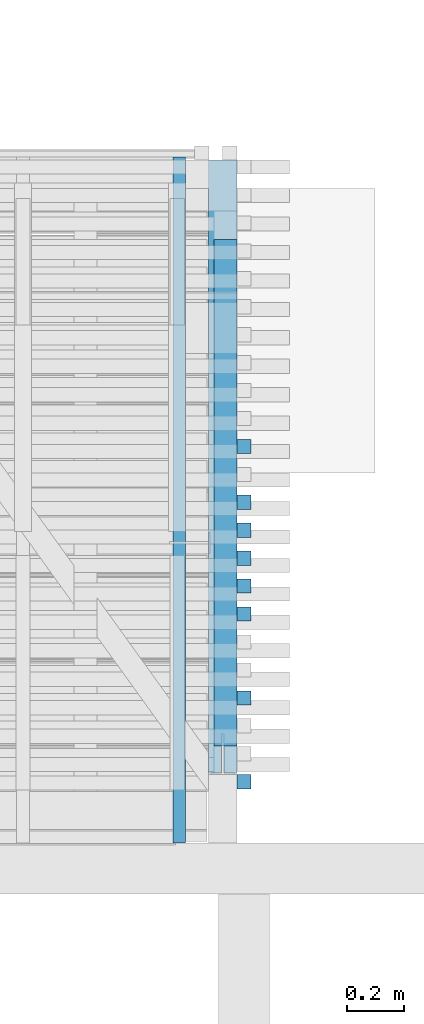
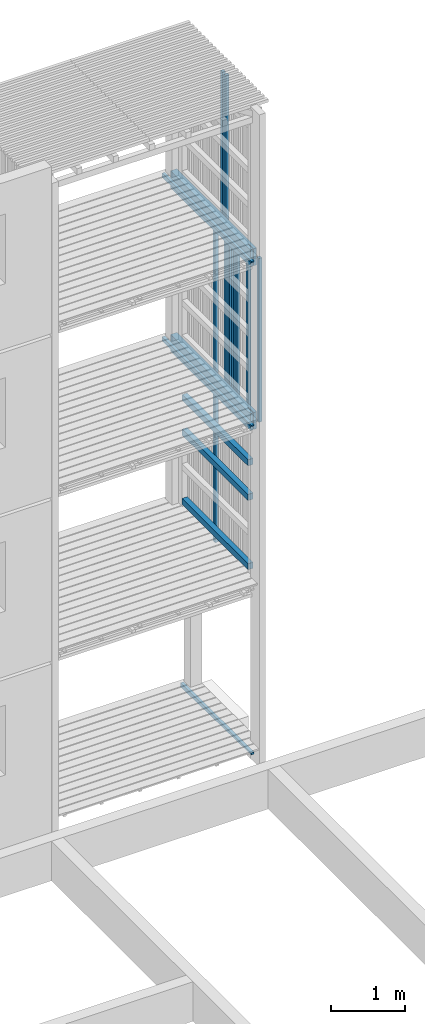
# One storey, part 129 of 182: 18 beams.
"""IFC2X3 building model written with IfcOpenShell, lengths in metres."""

from ifc_helpers import new_model, si_unit, frame, origin, place, context, project, spatial, faceted_brep, element, save


model = new_model("IFC2X3")

# Units and contexts
model_context = context("Model", 3, precision=1e-06, world=origin())
ifc_project = project(units=[si_unit("LENGTHUNIT", "METRE"), si_unit("PLANEANGLEUNIT", "RADIAN")], contexts=[model_context])

# Site, building, storey
site = spatial("IfcSite", under=ifc_project, CompositionType="ELEMENT")
building = spatial("IfcBuilding", under=site, CompositionType="ELEMENT")
storey = spatial("IfcBuildingStorey", under=building, Name="vs", CompositionType="ELEMENT", Elevation=-0.85)

# Beams
placement = place(None, origin())
beam_1_placement = place(placement, frame((56.37999999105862, 6.263259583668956, 5.274999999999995), z_axis=(-1.0, 0.0, 0.0), x_axis=(0.0, 0.0, 1.0)))
element("IfcBeam", 1, at=beam_1_placement, inside=storey, Name="Bardage", context=model_context, shape_type="Brep", body=[
    faceted_brep([(1e-15, -0.024999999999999, 0.024999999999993), (1e-15, 0.024999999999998, 0.024999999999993), (1e-15, 0.024999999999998, -0.025000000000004), (1e-15, -0.024999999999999, -0.025000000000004), (2.699999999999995, -0.024999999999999, -0.025000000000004), (2.699999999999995, 0.024999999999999, -0.025000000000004), (2.699999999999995, 0.024999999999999, 0.024999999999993), (2.699999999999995, -0.024999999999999, 0.024999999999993), (1e-15, -0.024999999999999, 0.024999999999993), (1e-15, -0.024999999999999, -0.025000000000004), (2.699999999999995, -0.024999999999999, -0.025000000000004), (2.699999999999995, -0.024999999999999, 0.024999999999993), (2.699999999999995, -0.024999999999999, -0.025000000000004), (1e-15, -0.024999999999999, -0.025000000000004), (1e-15, 0.024999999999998, -0.025000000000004), (2.699999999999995, 0.024999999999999, -0.025000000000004), (2.699999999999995, 0.024999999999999, -0.025000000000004), (1e-15, 0.024999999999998, -0.025000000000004), (1e-15, 0.024999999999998, 0.024999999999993), (2.699999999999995, 0.024999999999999, 0.024999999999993), (2.699999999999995, 0.024999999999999, 0.024999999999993), (1e-15, 0.024999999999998, 0.024999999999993), (1e-15, -0.024999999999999, 0.024999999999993), (2.699999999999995, -0.024999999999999, 0.024999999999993)], [[[0, 1, 2, 3]], [[4, 5, 6, 7]], [[8, 9, 10, 11]], [[12, 13, 14, 15]], [[16, 17, 18, 19]], [[20, 21, 22, 23]]]),
])
beam_2_placement = place(placement, frame((56.152499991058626, 4.870077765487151, -0.015599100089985), z_axis=(0.0, 0.0, 1.0), x_axis=(0.0, 1.0, 0.0)))
element("IfcBeam", 2, at=beam_2_placement, inside=storey, Name="Calage", context=model_context, shape_type="Brep", body=[
    faceted_brep([(1.91000000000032, -0.022499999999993, -0.035599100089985), (0.0, -0.022499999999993, 0.002600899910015), (0.0, 0.022500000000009, 0.002600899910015), (1.91000000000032, 0.022500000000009, -0.035599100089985), (0.0, -0.022499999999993, 0.035599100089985), (0.0, 0.022500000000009, 0.035599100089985), (0.0, 0.022500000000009, 0.002600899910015), (0.0, -0.022499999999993, 0.002600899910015), (0.0, 0.022500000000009, 0.035599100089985), (0.0, -0.022499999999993, 0.035599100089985), (1.91000000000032, -0.022499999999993, 0.035599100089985), (1.91000000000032, 0.022500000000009, 0.035599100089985), (1.91000000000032, -0.022499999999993, 0.035599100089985), (0.0, -0.022499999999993, 0.035599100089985), (0.0, -0.022499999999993, 0.002600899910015), (1.91000000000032, -0.022499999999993, -0.035599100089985), (1.91000000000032, 0.022500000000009, 0.035599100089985), (1.91000000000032, -0.022499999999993, 0.035599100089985), (1.91000000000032, -0.022499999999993, -0.035599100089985), (1.91000000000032, 0.022500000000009, -0.035599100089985), (0.0, 0.022500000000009, 0.002600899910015), (0.0, 0.022500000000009, 0.035599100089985), (1.91000000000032, 0.022500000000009, 0.035599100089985), (1.91000000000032, 0.022500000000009, -0.035599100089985)], [[[0, 1, 2, 3]], [[4, 5, 6, 7]], [[8, 9, 10, 11]], [[12, 13, 14, 15]], [[16, 17, 18, 19]], [[20, 21, 22, 23]]]),
])
beam_3_placement = place(placement, frame((56.152499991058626, 4.870077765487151, 5.384400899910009), z_axis=(0.0, 0.0, 1.0), x_axis=(0.0, 1.0, 0.0)))
element("IfcBeam", 3, at=beam_3_placement, inside=storey, Name="Calage", context=model_context, shape_type="Brep", body=[
    faceted_brep([(2.410000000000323, -0.022499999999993, -0.035599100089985), (0.0, -0.022499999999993, 0.012600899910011), (0.0, 0.022500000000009, 0.012600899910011), (2.410000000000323, 0.022500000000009, -0.035599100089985), (0.0, 0.022500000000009, 0.035599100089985), (0.0, 0.022500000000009, 0.012600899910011), (0.0, -0.022499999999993, 0.012600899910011), (0.0, -0.022499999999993, 0.035599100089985), (2.410000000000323, 0.022500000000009, -0.035599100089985), (0.0, 0.022500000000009, 0.012600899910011), (0.0, 0.022500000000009, 0.035599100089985), (2.410000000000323, 0.022500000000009, 0.035599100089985), (2.410000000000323, -0.022499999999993, 0.035599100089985), (0.0, -0.022499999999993, 0.035599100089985), (0.0, -0.022499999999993, 0.012600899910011), (2.410000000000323, -0.022499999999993, -0.035599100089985), (2.410000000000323, 0.022500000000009, 0.035599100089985), (0.0, 0.022500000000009, 0.035599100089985), (0.0, -0.022499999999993, 0.035599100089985), (2.410000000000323, -0.022499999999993, 0.035599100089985), (2.410000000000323, 0.022500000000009, -0.035599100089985), (2.410000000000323, 0.022500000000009, 0.035599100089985), (2.410000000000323, -0.022499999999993, 0.035599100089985), (2.410000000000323, -0.022499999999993, -0.035599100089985)], [[[0, 1, 2, 3]], [[4, 5, 6, 7]], [[8, 9, 10, 11]], [[12, 13, 14, 15]], [[16, 17, 18, 19]], [[20, 21, 22, 23]]]),
])
beam_4_placement = place(placement, frame((56.314999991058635, 5.210077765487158, 4.543749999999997), z_axis=(0.0, 0.0, 1.0), x_axis=(0.0, 1.0, 0.0)))
element("IfcBeam", 4, at=beam_4_placement, inside=storey, Name="Support bardage", context=model_context, shape_type="Brep", body=[
    faceted_brep([(1.779999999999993, -0.039999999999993, 0.050000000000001), (1.779999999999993, -0.039999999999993, -0.050000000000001), (1.779999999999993, 0.04000000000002, -0.050000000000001), (1.779999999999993, 0.04000000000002, 0.050000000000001), (-4e-15, -0.039999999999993, -0.050000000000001), (1.779999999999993, -0.039999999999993, -0.050000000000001), (1.779999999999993, -0.039999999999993, 0.050000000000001), (-4e-15, -0.039999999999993, 0.050000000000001), (-4e-15, 0.04000000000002, -0.050000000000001), (1.779999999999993, 0.04000000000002, -0.050000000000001), (1.779999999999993, -0.039999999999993, -0.050000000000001), (-4e-15, -0.039999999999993, -0.050000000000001), (-4e-15, 0.04000000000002, 0.050000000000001), (1.779999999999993, 0.04000000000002, 0.050000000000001), (1.779999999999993, 0.04000000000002, -0.050000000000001), (-4e-15, 0.04000000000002, -0.050000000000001), (-4e-15, -0.039999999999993, 0.050000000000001), (1.779999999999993, -0.039999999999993, 0.050000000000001), (1.779999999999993, 0.04000000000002, 0.050000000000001), (-4e-15, 0.04000000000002, 0.050000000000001), (-4e-15, -0.039999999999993, -0.050000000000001), (-4e-15, -0.039999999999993, 0.050000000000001), (-4e-15, 0.04000000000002, 0.050000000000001), (-4e-15, 0.04000000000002, -0.050000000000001)], [[[0, 1, 2, 3]], [[4, 5, 6, 7]], [[8, 9, 10, 11]], [[12, 13, 14, 15]], [[16, 17, 18, 19]], [[20, 21, 22, 23]]]),
])
beam_5_placement = place(placement, frame((56.37999999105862, 6.066895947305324, 7.974999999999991), z_axis=(-1.0, 0.0, 0.0), x_axis=(0.0, 0.0, 1.0)))
element("IfcBeam", 5, at=beam_5_placement, inside=storey, Name="Bardage", context=model_context, shape_type="Brep", body=[
    faceted_brep([(2.479999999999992, -0.025000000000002, 0.024999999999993), (2.479999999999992, -0.025000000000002, -0.025000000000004), (2.479999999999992, 0.024999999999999, -0.025000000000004), (2.479999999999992, 0.024999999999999, 0.024999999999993), (0.0, 0.024999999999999, 0.024999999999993), (0.0, -0.025000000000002, 0.024999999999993), (2.479999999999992, -0.025000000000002, 0.024999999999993), (2.479999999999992, 0.024999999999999, 0.024999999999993), (0.0, -0.025000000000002, 0.024999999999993), (0.0, 0.024999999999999, 0.024999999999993), (0.0, 0.024999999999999, -0.025000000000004), (0.0, -0.025000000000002, -0.025000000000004), (0.0, 0.024999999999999, -0.025000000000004), (0.0, 0.024999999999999, 0.024999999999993), (2.479999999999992, 0.024999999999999, 0.024999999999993), (2.479999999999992, 0.024999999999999, -0.025000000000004), (0.0, -0.025000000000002, -0.025000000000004), (0.0, 0.024999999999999, -0.025000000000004), (2.479999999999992, 0.024999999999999, -0.025000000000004), (2.479999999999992, -0.025000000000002, -0.025000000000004), (2.479999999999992, -0.025000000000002, 0.024999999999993), (0.0, -0.025000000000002, 0.024999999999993), (0.0, -0.025000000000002, -0.025000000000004), (2.479999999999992, -0.025000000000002, -0.025000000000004)], [[[0, 1, 2, 3]], [[4, 5, 6, 7]], [[8, 9, 10, 11]], [[12, 13, 14, 15]], [[16, 17, 18, 19]], [[20, 21, 22, 23]]]),
])
beam_6_placement = place(placement, frame((56.314999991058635, 5.210077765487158, 2.830000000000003), z_axis=(0.0, 0.0, 1.0), x_axis=(0.0, 1.0, 0.0)))
element("IfcBeam", 6, at=beam_6_placement, inside=storey, Name="Support bardage", context=model_context, shape_type="Brep", body=[
    faceted_brep([(1.779999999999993, -0.039999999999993, 0.05), (1.779999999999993, -0.039999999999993, -0.050000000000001), (1.779999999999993, 0.04000000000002, -0.050000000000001), (1.779999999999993, 0.04000000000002, 0.05), (-4e-15, -0.039999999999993, -0.050000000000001), (1.779999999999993, -0.039999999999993, -0.050000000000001), (1.779999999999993, -0.039999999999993, 0.05), (-4e-15, -0.039999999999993, 0.05), (-4e-15, 0.04000000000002, -0.050000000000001), (1.779999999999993, 0.04000000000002, -0.050000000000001), (1.779999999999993, -0.039999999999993, -0.050000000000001), (-4e-15, -0.039999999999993, -0.050000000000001), (-4e-15, 0.04000000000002, 0.05), (1.779999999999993, 0.04000000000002, 0.05), (1.779999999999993, 0.04000000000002, -0.050000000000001), (-4e-15, 0.04000000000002, -0.050000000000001), (-4e-15, -0.039999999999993, 0.05), (1.779999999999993, -0.039999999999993, 0.05), (1.779999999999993, 0.04000000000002, 0.05), (-4e-15, 0.04000000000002, 0.05), (-4e-15, -0.039999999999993, -0.050000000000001), (-4e-15, -0.039999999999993, 0.05), (-4e-15, 0.04000000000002, 0.05), (-4e-15, 0.04000000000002, -0.050000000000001)], [[[0, 1, 2, 3]], [[4, 5, 6, 7]], [[8, 9, 10, 11]], [[12, 13, 14, 15]], [[16, 17, 18, 19]], [[20, 21, 22, 23]]]),
])
beam_7_placement = place(placement, frame((56.30499999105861, 5.115077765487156, 7.979999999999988), z_axis=(0.0, 0.0, 1.0), x_axis=(0.0, 1.0, 0.0)))
element("IfcBeam", 7, at=beam_7_placement, inside=storey, Name="Sommier", context=model_context, shape_type="Brep", body=[
    faceted_brep([(2.154999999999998, -0.050000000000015, -0.14), (2.154999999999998, -0.050000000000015, 0.140000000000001), (0.0, -0.050000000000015, 0.140000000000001), (0.0, -0.050000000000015, -0.14), (-4e-15, -0.004000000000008, 0.140000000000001), (0.0, -0.050000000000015, 0.140000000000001), (2.154999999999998, -0.050000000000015, 0.140000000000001), (2.154999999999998, 0.049999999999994, 0.140000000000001), (0.0, 0.049999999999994, 0.140000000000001), (-4e-15, 0.003999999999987, 0.140000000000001), (0.136999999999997, 0.003999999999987, 0.140000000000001), (0.136999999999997, -0.004000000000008, 0.140000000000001), (2.154999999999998, 0.049999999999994, 0.140000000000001), (2.154999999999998, -0.050000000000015, 0.140000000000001), (2.154999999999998, -0.050000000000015, -0.14), (2.154999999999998, 0.049999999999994, -0.14), (0.847999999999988, 0.044999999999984, -0.14), (0.771999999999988, 0.044999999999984, -0.14), (0.771999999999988, 0.044999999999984, 0.035000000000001), (0.847999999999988, 0.044999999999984, 0.035000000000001), (0.847999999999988, 0.044999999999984, 0.035000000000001), (0.771999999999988, 0.044999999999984, 0.035000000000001), (0.771999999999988, 0.049999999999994, 0.035000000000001), (0.847999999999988, 0.049999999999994, 0.035000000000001), (0.847999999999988, 0.049999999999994, -0.14), (0.847999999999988, 0.044999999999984, -0.14), (0.847999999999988, 0.044999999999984, 0.035000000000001), (0.847999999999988, 0.049999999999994, 0.035000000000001), (0.771999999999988, 0.044999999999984, 0.035000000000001), (0.771999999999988, 0.044999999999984, -0.14), (0.771999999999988, 0.049999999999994, -0.14), (0.771999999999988, 0.049999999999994, 0.035000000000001), (0.0, 0.049999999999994, 0.140000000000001), (2.154999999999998, 0.049999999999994, 0.140000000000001), (2.154999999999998, 0.049999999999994, -0.14), (0.847999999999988, 0.049999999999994, -0.14), (0.847999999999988, 0.049999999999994, 0.035000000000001), (0.771999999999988, 0.049999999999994, 0.035000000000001), (0.771999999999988, 0.049999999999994, -0.14), (0.0, 0.049999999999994, -0.14), (0.0, 0.003999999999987, -0.14), (-4e-15, 0.003999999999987, 0.140000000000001), (0.0, 0.049999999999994, 0.140000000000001), (0.0, 0.049999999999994, -0.14), (0.0, -0.050000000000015, 0.140000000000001), (-4e-15, -0.004000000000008, 0.140000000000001), (0.0, -0.004000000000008, -0.14), (0.0, -0.050000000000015, -0.14), (0.0, 0.049999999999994, -0.14), (0.771999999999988, 0.049999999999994, -0.14), (0.771999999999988, 0.044999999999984, -0.14), (0.847999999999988, 0.044999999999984, -0.14), (0.847999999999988, 0.049999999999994, -0.14), (2.154999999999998, 0.049999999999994, -0.14), (2.154999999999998, -0.050000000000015, -0.14), (0.0, -0.050000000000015, -0.14), (0.0, -0.004000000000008, -0.14), (0.136999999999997, -0.004000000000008, -0.14), (0.136999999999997, 0.003999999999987, -0.14), (0.0, 0.003999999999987, -0.14), (0.136999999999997, 0.003999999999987, -0.14), (0.136999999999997, -0.004000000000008, -0.14), (0.136999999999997, -0.004000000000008, 0.140000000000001), (0.136999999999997, 0.003999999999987, 0.140000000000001), (-4e-15, -0.004000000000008, 0.140000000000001), (0.136999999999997, -0.004000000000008, 0.140000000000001), (0.136999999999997, -0.004000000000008, -0.14), (0.0, -0.004000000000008, -0.14), (0.136999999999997, 0.003999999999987, 0.140000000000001), (-4e-15, 0.003999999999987, 0.140000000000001), (0.0, 0.003999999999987, -0.14), (0.136999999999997, 0.003999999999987, -0.14)], [[[0, 1, 2, 3]], [[4, 5, 6, 7, 8, 9, 10, 11]], [[12, 13, 14, 15]], [[16, 17, 18, 19]], [[20, 21, 22, 23]], [[24, 25, 26, 27]], [[28, 29, 30, 31]], [[32, 33, 34, 35, 36, 37, 38, 39]], [[40, 41, 42, 43]], [[44, 45, 46, 47]], [[48, 49, 50, 51, 52, 53, 54, 55, 56, 57, 58, 59]], [[60, 61, 62, 63]], [[64, 65, 66, 67]], [[68, 69, 70, 71]]]),
])
beam_8_placement = place(placement, frame((56.37999999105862, 5.870532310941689, 5.274999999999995), z_axis=(-1.0, 0.0, 0.0), x_axis=(0.0, 0.0, 1.0)))
element("IfcBeam", 8, at=beam_8_placement, inside=storey, Name="Bardage", context=model_context, shape_type="Brep", body=[
    faceted_brep([(1e-15, -0.025000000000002, 0.024999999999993), (1e-15, 0.025000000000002, 0.024999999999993), (1e-15, 0.025000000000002, -0.025000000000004), (1e-15, -0.025000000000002, -0.025000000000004), (2.699999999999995, -0.025000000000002, -0.025000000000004), (2.699999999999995, 0.025000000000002, -0.025000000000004), (2.699999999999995, 0.025000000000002, 0.024999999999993), (2.699999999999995, -0.025000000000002, 0.024999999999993), (1e-15, -0.025000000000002, 0.024999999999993), (1e-15, -0.025000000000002, -0.025000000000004), (2.699999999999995, -0.025000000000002, -0.025000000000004), (2.699999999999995, -0.025000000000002, 0.024999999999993), (2.699999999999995, -0.025000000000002, -0.025000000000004), (1e-15, -0.025000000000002, -0.025000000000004), (1e-15, 0.025000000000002, -0.025000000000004), (2.699999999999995, 0.025000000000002, -0.025000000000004), (2.699999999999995, 0.025000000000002, -0.025000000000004), (1e-15, 0.025000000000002, -0.025000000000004), (1e-15, 0.025000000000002, 0.024999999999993), (2.699999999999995, 0.025000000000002, 0.024999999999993), (2.699999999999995, 0.025000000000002, 0.024999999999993), (1e-15, 0.025000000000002, 0.024999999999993), (1e-15, -0.025000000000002, 0.024999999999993), (2.699999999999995, -0.025000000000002, 0.024999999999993)], [[[0, 1, 2, 3]], [[4, 5, 6, 7]], [[8, 9, 10, 11]], [[12, 13, 14, 15]], [[16, 17, 18, 19]], [[20, 21, 22, 23]]]),
])
beam_9_placement = place(placement, frame((56.314999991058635, 5.210077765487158, 3.972499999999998), z_axis=(0.0, 0.0, 1.0), x_axis=(0.0, 1.0, 0.0)))
element("IfcBeam", 9, at=beam_9_placement, inside=storey, Name="Support bardage", context=model_context, shape_type="Brep", body=[
    faceted_brep([(1.779999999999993, -0.039999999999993, 0.050000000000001), (1.779999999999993, -0.039999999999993, -0.050000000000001), (1.779999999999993, 0.04000000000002, -0.050000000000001), (1.779999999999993, 0.04000000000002, 0.050000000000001), (-4e-15, -0.039999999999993, -0.050000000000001), (1.779999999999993, -0.039999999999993, -0.050000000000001), (1.779999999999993, -0.039999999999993, 0.050000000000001), (-4e-15, -0.039999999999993, 0.050000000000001), (-4e-15, 0.04000000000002, -0.050000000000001), (1.779999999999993, 0.04000000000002, -0.050000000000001), (1.779999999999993, -0.039999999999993, -0.050000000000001), (-4e-15, -0.039999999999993, -0.050000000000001), (-4e-15, 0.04000000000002, 0.050000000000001), (1.779999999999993, 0.04000000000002, 0.050000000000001), (1.779999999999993, 0.04000000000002, -0.050000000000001), (-4e-15, 0.04000000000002, -0.050000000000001), (-4e-15, -0.039999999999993, 0.050000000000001), (1.779999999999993, -0.039999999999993, 0.050000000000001), (1.779999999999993, 0.04000000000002, 0.050000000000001), (-4e-15, 0.04000000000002, 0.050000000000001), (-4e-15, -0.039999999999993, -0.050000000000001), (-4e-15, -0.039999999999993, 0.050000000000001), (-4e-15, 0.04000000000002, 0.050000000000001), (-4e-15, 0.04000000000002, -0.050000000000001)], [[[0, 1, 2, 3]], [[4, 5, 6, 7]], [[8, 9, 10, 11]], [[12, 13, 14, 15]], [[16, 17, 18, 19]], [[20, 21, 22, 23]]]),
])
beam_10_placement = place(placement, frame((56.152499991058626, 4.870077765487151, 8.084400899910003), z_axis=(0.0, 0.0, 1.0), x_axis=(0.0, 1.0, 0.0)))
element("IfcBeam", 10, at=beam_10_placement, inside=storey, Name="Calage", context=model_context, shape_type="Brep", body=[
    faceted_brep([(2.410000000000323, -0.022499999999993, -0.035599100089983), (0.0, -0.022499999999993, 0.012600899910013), (0.0, 0.022500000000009, 0.012600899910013), (2.410000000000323, 0.022500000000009, -0.035599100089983), (0.0, 0.022500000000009, 0.035599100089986), (0.0, 0.022500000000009, 0.012600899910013), (0.0, -0.022499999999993, 0.012600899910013), (0.0, -0.022499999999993, 0.035599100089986), (2.410000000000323, 0.022500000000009, -0.035599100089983), (0.0, 0.022500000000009, 0.012600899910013), (0.0, 0.022500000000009, 0.035599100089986), (2.410000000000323, 0.022500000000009, 0.035599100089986), (2.410000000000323, -0.022499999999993, 0.035599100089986), (0.0, -0.022499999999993, 0.035599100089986), (0.0, -0.022499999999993, 0.012600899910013), (2.410000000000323, -0.022499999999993, -0.035599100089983), (2.410000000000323, 0.022500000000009, 0.035599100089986), (0.0, 0.022500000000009, 0.035599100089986), (0.0, -0.022499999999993, 0.035599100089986), (2.410000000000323, -0.022499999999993, 0.035599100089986), (2.410000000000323, 0.022500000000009, -0.035599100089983), (2.410000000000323, 0.022500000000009, 0.035599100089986), (2.410000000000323, -0.022499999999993, 0.035599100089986), (2.410000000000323, -0.022499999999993, -0.035599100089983)], [[[0, 1, 2, 3]], [[4, 5, 6, 7]], [[8, 9, 10, 11]], [[12, 13, 14, 15]], [[16, 17, 18, 19]], [[20, 21, 22, 23]]]),
])
beam_11_placement = place(placement, frame((56.30499999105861, 5.115077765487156, 5.279999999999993), z_axis=(0.0, 0.0, 1.0), x_axis=(0.0, 1.0, 0.0)))
element("IfcBeam", 11, at=beam_11_placement, inside=storey, Name="Sommier", context=model_context, shape_type="Brep", body=[
    faceted_brep([(2.154999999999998, -0.050000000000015, -0.140000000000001), (2.154999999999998, -0.050000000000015, 0.140000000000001), (0.0, -0.050000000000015, 0.140000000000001), (0.0, -0.050000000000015, -0.140000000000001), (-4e-15, -0.004000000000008, 0.140000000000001), (0.0, -0.050000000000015, 0.140000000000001), (2.154999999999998, -0.050000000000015, 0.140000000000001), (2.154999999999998, 0.049999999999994, 0.140000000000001), (0.0, 0.049999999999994, 0.140000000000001), (-4e-15, 0.003999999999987, 0.140000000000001), (0.136999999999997, 0.003999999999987, 0.140000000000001), (0.136999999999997, -0.004000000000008, 0.140000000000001), (2.154999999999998, 0.049999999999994, 0.140000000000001), (2.154999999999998, -0.050000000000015, 0.140000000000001), (2.154999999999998, -0.050000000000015, -0.140000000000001), (2.154999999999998, 0.049999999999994, -0.140000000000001), (0.847999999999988, 0.044999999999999, -0.140000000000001), (0.771999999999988, 0.044999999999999, -0.140000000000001), (0.771999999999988, 0.044999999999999, 0.034999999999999), (0.847999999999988, 0.044999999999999, 0.034999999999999), (0.847999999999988, 0.044999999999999, 0.034999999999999), (0.771999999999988, 0.044999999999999, 0.034999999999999), (0.771999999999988, 0.049999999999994, 0.034999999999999), (0.847999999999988, 0.049999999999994, 0.034999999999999), (0.847999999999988, 0.049999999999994, -0.140000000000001), (0.847999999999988, 0.044999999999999, -0.140000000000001), (0.847999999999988, 0.044999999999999, 0.034999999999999), (0.847999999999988, 0.049999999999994, 0.034999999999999), (0.771999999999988, 0.044999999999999, 0.034999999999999), (0.771999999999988, 0.044999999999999, -0.140000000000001), (0.771999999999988, 0.049999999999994, -0.140000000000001), (0.771999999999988, 0.049999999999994, 0.034999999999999), (0.0, 0.049999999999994, 0.140000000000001), (2.154999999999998, 0.049999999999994, 0.140000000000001), (2.154999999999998, 0.049999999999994, -0.140000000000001), (0.847999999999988, 0.049999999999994, -0.140000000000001), (0.847999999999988, 0.049999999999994, 0.034999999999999), (0.771999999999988, 0.049999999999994, 0.034999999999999), (0.771999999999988, 0.049999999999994, -0.140000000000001), (0.0, 0.049999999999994, -0.140000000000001), (0.0, 0.003999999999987, -0.140000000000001), (-4e-15, 0.003999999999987, 0.140000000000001), (0.0, 0.049999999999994, 0.140000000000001), (0.0, 0.049999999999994, -0.140000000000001), (0.0, -0.050000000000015, 0.140000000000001), (-4e-15, -0.004000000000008, 0.140000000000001), (0.0, -0.004000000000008, -0.140000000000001), (0.0, -0.050000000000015, -0.140000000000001), (0.0, 0.049999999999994, -0.140000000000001), (0.771999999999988, 0.049999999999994, -0.140000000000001), (0.771999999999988, 0.044999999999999, -0.140000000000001), (0.847999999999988, 0.044999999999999, -0.140000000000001), (0.847999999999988, 0.049999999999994, -0.140000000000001), (2.154999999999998, 0.049999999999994, -0.140000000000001), (2.154999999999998, -0.050000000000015, -0.140000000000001), (0.0, -0.050000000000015, -0.140000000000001), (0.0, -0.004000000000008, -0.140000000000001), (0.136999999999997, -0.004000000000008, -0.140000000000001), (0.136999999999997, 0.003999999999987, -0.140000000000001), (0.0, 0.003999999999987, -0.140000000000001), (0.136999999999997, 0.003999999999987, -0.140000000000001), (0.136999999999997, -0.004000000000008, -0.140000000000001), (0.136999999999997, -0.004000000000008, 0.140000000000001), (0.136999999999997, 0.003999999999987, 0.140000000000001), (-4e-15, -0.004000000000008, 0.140000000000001), (0.136999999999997, -0.004000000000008, 0.140000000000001), (0.136999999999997, -0.004000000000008, -0.140000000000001), (0.0, -0.004000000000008, -0.140000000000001), (0.136999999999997, 0.003999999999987, 0.140000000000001), (-4e-15, 0.003999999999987, 0.140000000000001), (0.0, 0.003999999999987, -0.140000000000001), (0.136999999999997, 0.003999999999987, -0.140000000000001)], [[[0, 1, 2, 3]], [[4, 5, 6, 7, 8, 9, 10, 11]], [[12, 13, 14, 15]], [[16, 17, 18, 19]], [[20, 21, 22, 23]], [[24, 25, 26, 27]], [[28, 29, 30, 31]], [[32, 33, 34, 35, 36, 37, 38, 39]], [[40, 41, 42, 43]], [[44, 45, 46, 47]], [[48, 49, 50, 51, 52, 53, 54, 55, 56, 57, 58, 59]], [[60, 61, 62, 63]], [[64, 65, 66, 67]], [[68, 69, 70, 71]]]),
])
for number, where, z_axis, x_axis in (
    (12, (56.37999999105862, 5.968714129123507, 5.274999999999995), (-1.0, 0.0, 0.0), (0.0, 0.0, 1.0)),
    (13, (56.37999999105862, 5.772350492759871, 5.274999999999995), (-1.0, 0.0, 0.0), (0.0, 0.0, 1.0)),
):
    element("IfcBeam", number, at=place(placement, frame(where, z_axis=z_axis, x_axis=x_axis)), inside=storey, Name="Bardage", context=model_context, shape_type="Brep", body=[
        faceted_brep([(1e-15, -0.024999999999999, 0.024999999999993), (1e-15, 0.024999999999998, 0.024999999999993), (1e-15, 0.024999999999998, -0.025000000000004), (1e-15, -0.024999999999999, -0.025000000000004), (2.699999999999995, -0.024999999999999, -0.025000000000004), (2.699999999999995, 0.024999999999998, -0.025000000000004), (2.699999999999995, 0.024999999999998, 0.024999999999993), (2.699999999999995, -0.024999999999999, 0.024999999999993), (1e-15, -0.024999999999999, 0.024999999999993), (1e-15, -0.024999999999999, -0.025000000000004), (2.699999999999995, -0.024999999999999, -0.025000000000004), (2.699999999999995, -0.024999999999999, 0.024999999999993), (2.699999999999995, -0.024999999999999, -0.025000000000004), (1e-15, -0.024999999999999, -0.025000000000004), (1e-15, 0.024999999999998, -0.025000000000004), (2.699999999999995, 0.024999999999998, -0.025000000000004), (2.699999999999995, 0.024999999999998, -0.025000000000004), (1e-15, 0.024999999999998, -0.025000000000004), (1e-15, 0.024999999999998, 0.024999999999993), (2.699999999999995, 0.024999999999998, 0.024999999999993), (2.699999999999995, 0.024999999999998, 0.024999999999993), (1e-15, 0.024999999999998, 0.024999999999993), (1e-15, -0.024999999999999, 0.024999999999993), (2.699999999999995, -0.024999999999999, 0.024999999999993)], [[[0, 1, 2, 3]], [[4, 5, 6, 7]], [[8, 9, 10, 11]], [[12, 13, 14, 15]], [[16, 17, 18, 19]], [[20, 21, 22, 23]]]),
    ])
beam_12_placement = place(placement, frame((56.37999999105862, 6.263259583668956, 2.575000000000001), z_axis=(-1.0, 0.0, 0.0), x_axis=(0.0, 0.0, 1.0)))
element("IfcBeam", 14, at=beam_12_placement, inside=storey, Name="Bardage", context=model_context, shape_type="Brep", body=[
    faceted_brep([(0.0, -0.024999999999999, 0.024999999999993), (0.0, 0.024999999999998, 0.024999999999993), (0.0, 0.024999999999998, -0.025000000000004), (0.0, -0.024999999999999, -0.025000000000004), (2.699961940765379, 0.024999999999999, -0.025000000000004), (2.699961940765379, 0.024999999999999, 0.024999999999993), (2.699961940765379, -0.024999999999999, 0.024999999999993), (2.699961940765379, -0.024999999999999, -0.025000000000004), (0.0, -0.024999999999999, -0.025000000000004), (0.0, 0.024999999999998, -0.025000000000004), (2.699961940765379, 0.024999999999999, -0.025000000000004), (2.699961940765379, -0.024999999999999, -0.025000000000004), (2.699961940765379, 0.024999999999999, -0.025000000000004), (0.0, 0.024999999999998, -0.025000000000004), (0.0, 0.024999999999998, 0.024999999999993), (2.699961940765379, 0.024999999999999, 0.024999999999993), (2.699961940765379, 0.024999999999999, 0.024999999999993), (0.0, 0.024999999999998, 0.024999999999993), (0.0, -0.024999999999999, 0.024999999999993), (2.699961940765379, -0.024999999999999, 0.024999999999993), (2.699961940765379, -0.024999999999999, 0.024999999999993), (0.0, -0.024999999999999, 0.024999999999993), (0.0, -0.024999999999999, -0.025000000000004), (2.699961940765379, -0.024999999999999, -0.025000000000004)], [[[0, 1, 2, 3]], [[4, 5, 6, 7]], [[8, 9, 10, 11]], [[12, 13, 14, 15]], [[16, 17, 18, 19]], [[20, 21, 22, 23]]]),
])
beam_13_placement = place(placement, frame((56.37999999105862, 5.674168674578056, 5.274999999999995), z_axis=(-1.0, 0.0, 0.0), x_axis=(0.0, 0.0, 1.0)))
element("IfcBeam", 15, at=beam_13_placement, inside=storey, Name="Bardage", context=model_context, shape_type="Brep", body=[
    faceted_brep([(1e-15, -0.025000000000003, 0.024999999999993), (1e-15, 0.024999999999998, 0.024999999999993), (1e-15, 0.024999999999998, -0.025000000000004), (1e-15, -0.025000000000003, -0.025000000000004), (2.699999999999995, -0.025000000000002, -0.025000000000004), (2.699999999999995, 0.024999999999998, -0.025000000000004), (2.699999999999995, 0.024999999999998, 0.024999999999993), (2.699999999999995, -0.025000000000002, 0.024999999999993), (1e-15, -0.025000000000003, 0.024999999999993), (1e-15, -0.025000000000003, -0.025000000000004), (2.699999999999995, -0.025000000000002, -0.025000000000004), (2.699999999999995, -0.025000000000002, 0.024999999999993), (2.699999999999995, -0.025000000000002, -0.025000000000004), (1e-15, -0.025000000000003, -0.025000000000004), (1e-15, 0.024999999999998, -0.025000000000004), (2.699999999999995, 0.024999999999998, -0.025000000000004), (2.699999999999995, 0.024999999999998, -0.025000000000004), (1e-15, 0.024999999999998, -0.025000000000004), (1e-15, 0.024999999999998, 0.024999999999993), (2.699999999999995, 0.024999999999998, 0.024999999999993), (2.699999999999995, 0.024999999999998, 0.024999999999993), (1e-15, 0.024999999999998, 0.024999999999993), (1e-15, -0.025000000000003, 0.024999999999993), (2.699999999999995, -0.025000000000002, 0.024999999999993)], [[[0, 1, 2, 3]], [[4, 5, 6, 7]], [[8, 9, 10, 11]], [[12, 13, 14, 15]], [[16, 17, 18, 19]], [[20, 21, 22, 23]]]),
])
beam_14_placement = place(placement, frame((56.37999999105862, 5.968714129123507, 7.974999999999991), z_axis=(-1.0, 0.0, 0.0), x_axis=(0.0, 0.0, 1.0)))
element("IfcBeam", 16, at=beam_14_placement, inside=storey, Name="Bardage", context=model_context, shape_type="Brep", body=[
    faceted_brep([(2.479999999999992, -0.024999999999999, 0.024999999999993), (2.479999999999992, -0.024999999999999, -0.025000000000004), (2.479999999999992, 0.024999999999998, -0.025000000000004), (2.479999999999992, 0.024999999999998, 0.024999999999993), (0.0, 0.024999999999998, 0.024999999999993), (0.0, -0.024999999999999, 0.024999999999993), (2.479999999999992, -0.024999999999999, 0.024999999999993), (2.479999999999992, 0.024999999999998, 0.024999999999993), (0.0, -0.024999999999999, 0.024999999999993), (0.0, 0.024999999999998, 0.024999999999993), (0.0, 0.024999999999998, -0.025000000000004), (0.0, -0.024999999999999, -0.025000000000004), (0.0, 0.024999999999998, -0.025000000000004), (0.0, 0.024999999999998, 0.024999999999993), (2.479999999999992, 0.024999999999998, 0.024999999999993), (2.479999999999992, 0.024999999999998, -0.025000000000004), (0.0, -0.024999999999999, -0.025000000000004), (0.0, 0.024999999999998, -0.025000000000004), (2.479999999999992, 0.024999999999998, -0.025000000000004), (2.479999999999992, -0.024999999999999, -0.025000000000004), (2.479999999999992, -0.024999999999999, 0.024999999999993), (0.0, -0.024999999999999, 0.024999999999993), (0.0, -0.024999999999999, -0.025000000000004), (2.479999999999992, -0.024999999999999, -0.025000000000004)], [[[0, 1, 2, 3]], [[4, 5, 6, 7]], [[8, 9, 10, 11]], [[12, 13, 14, 15]], [[16, 17, 18, 19]], [[20, 21, 22, 23]]]),
])
beam_15_placement = place(placement, frame((56.37999999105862, 5.379623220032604, 5.274999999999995), z_axis=(-1.0, 0.0, 0.0), x_axis=(0.0, 1e-15, 1.0)))
element("IfcBeam", 17, at=beam_15_placement, inside=storey, Name="Bardage", context=model_context, shape_type="Brep", body=[
    faceted_brep([(1e-15, -0.024999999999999, 0.024999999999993), (1e-15, 0.025000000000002, 0.024999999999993), (1e-15, 0.025000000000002, -0.025000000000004), (1e-15, -0.024999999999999, -0.025000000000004), (2.699999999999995, -0.025000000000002, -0.025000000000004), (2.699999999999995, 0.024999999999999, -0.025000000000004), (2.699999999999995, 0.024999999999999, 0.024999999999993), (2.699999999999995, -0.025000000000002, 0.024999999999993), (1e-15, -0.024999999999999, 0.024999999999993), (1e-15, -0.024999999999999, -0.025000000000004), (2.699999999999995, -0.025000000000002, -0.025000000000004), (2.699999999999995, -0.025000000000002, 0.024999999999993), (2.699999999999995, -0.025000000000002, -0.025000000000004), (1e-15, -0.024999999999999, -0.025000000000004), (1e-15, 0.025000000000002, -0.025000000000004), (2.699999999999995, 0.024999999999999, -0.025000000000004), (2.699999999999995, 0.024999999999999, -0.025000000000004), (1e-15, 0.025000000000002, -0.025000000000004), (1e-15, 0.025000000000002, 0.024999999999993), (2.699999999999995, 0.024999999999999, 0.024999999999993), (2.699999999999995, 0.024999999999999, 0.024999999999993), (1e-15, 0.025000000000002, 0.024999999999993), (1e-15, -0.024999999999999, 0.024999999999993), (2.699999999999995, -0.025000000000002, 0.024999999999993)], [[[0, 1, 2, 3]], [[4, 5, 6, 7]], [[8, 9, 10, 11]], [[12, 13, 14, 15]], [[16, 17, 18, 19]], [[20, 21, 22, 23]]]),
])
beam_16_placement = place(placement, frame((56.37999999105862, 5.085077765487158, 5.274999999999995), z_axis=(-1.0, 0.0, 0.0), x_axis=(0.0, 0.0, 1.0)))
element("IfcBeam", 18, at=beam_16_placement, inside=storey, Name="Bardage", context=model_context, shape_type="Brep", body=[
    faceted_brep([(1e-15, -0.025000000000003, 0.024999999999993), (1e-15, 0.024999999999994, 0.024999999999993), (1e-15, 0.024999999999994, -0.025000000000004), (1e-15, -0.025000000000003, -0.025000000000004), (2.699999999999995, -0.025000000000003, -0.025000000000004), (2.699999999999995, 0.024999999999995, -0.025000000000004), (2.699999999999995, 0.024999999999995, 0.024999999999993), (2.699999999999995, -0.025000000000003, 0.024999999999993), (1e-15, -0.025000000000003, 0.024999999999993), (1e-15, -0.025000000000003, -0.025000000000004), (2.699999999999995, -0.025000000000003, -0.025000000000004), (2.699999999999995, -0.025000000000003, 0.024999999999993), (2.699999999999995, -0.025000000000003, -0.025000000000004), (1e-15, -0.025000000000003, -0.025000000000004), (1e-15, 0.024999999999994, -0.025000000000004), (2.699999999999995, 0.024999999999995, -0.025000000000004), (2.699999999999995, 0.024999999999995, -0.025000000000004), (1e-15, 0.024999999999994, -0.025000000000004), (1e-15, 0.024999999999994, 0.024999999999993), (2.699999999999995, 0.024999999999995, 0.024999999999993), (2.699999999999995, 0.024999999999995, 0.024999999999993), (1e-15, 0.024999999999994, 0.024999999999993), (1e-15, -0.025000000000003, 0.024999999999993), (2.699999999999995, -0.025000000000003, 0.024999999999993)], [[[0, 1, 2, 3]], [[4, 5, 6, 7]], [[8, 9, 10, 11]], [[12, 13, 14, 15]], [[16, 17, 18, 19]], [[20, 21, 22, 23]]]),
])

save(model, "model.ifc")
